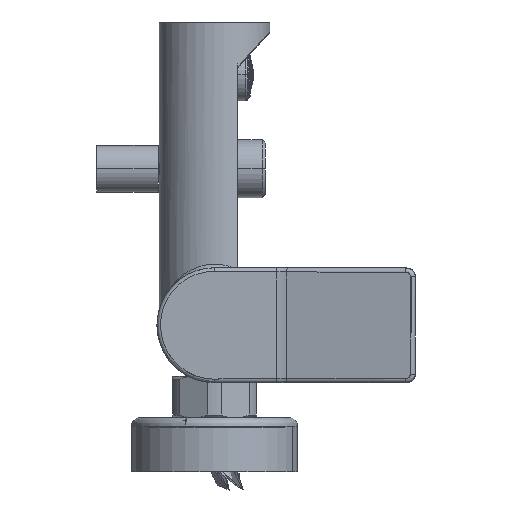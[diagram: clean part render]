
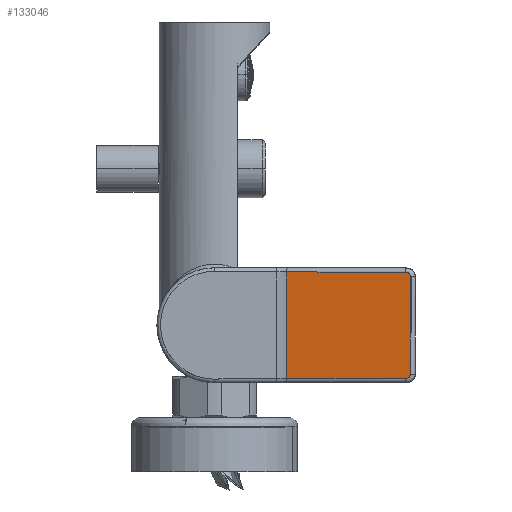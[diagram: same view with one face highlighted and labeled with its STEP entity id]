
A CAD part, left-side view. The second image highlights one B-rep face of the part: STEP entity #133046.
In plain terms, the highlighted planar face has unit normal (-0.984, 0.181, 0).
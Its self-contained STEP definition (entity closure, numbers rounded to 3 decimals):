
#2978 = CARTESIAN_POINT ( 'NONE',  ( -172.516, -66.192, 277.245 ) ) ;
#3785 = CARTESIAN_POINT ( 'NONE',  ( -163.992, -19.845, 238.464 ) ) ;
#4367 = CARTESIAN_POINT ( 'NONE',  ( -172.471, -65.951, 277.744 ) ) ;
#6793 = CARTESIAN_POINT ( 'NONE',  ( -172.223, -64.555, 239.909 ) ) ;
#8357 = EDGE_LOOP ( 'NONE', ( #100286, #77087, #90310, #76888, #104806, #16167 ) ) ;
#9609 = CARTESIAN_POINT ( 'NONE',  ( -172.532, -66.234, 241.391 ) ) ;
#9732 = VECTOR ( 'NONE', #23044, 1000. ) ;
#9807 = EDGE_CURVE ( 'NONE', #115865, #17746, #102676, .T. ) ;
#11719 = CARTESIAN_POINT ( 'NONE',  ( -172.524, -66.195, 241.182 ) ) ;
#15791 = CARTESIAN_POINT ( 'NONE',  ( -172.37, -65.402, 278.205 ) ) ;
#16167 = ORIENTED_EDGE ( 'NONE', *, *, #88580, .T. ) ;
#17091 = CARTESIAN_POINT ( 'NONE',  ( -172.223, -64.602, 278.409 ) ) ;
#17746 = VERTEX_POINT ( 'NONE', #52116 ) ;
#18443 = CARTESIAN_POINT ( 'NONE',  ( -172.223, -64.555, 239.909 ) ) ;
#19886 = EDGE_CURVE ( 'NONE', #46797, #96023, #78971, .T. ) ;
#20349 = CARTESIAN_POINT ( 'NONE',  ( -172.271, -64.818, 239.924 ) ) ;
#21745 = VECTOR ( 'NONE', #78220, 1000. ) ;
#21827 = CARTESIAN_POINT ( 'NONE',  ( -163.992, -19.847, 239.964 ) ) ;
#23044 = DIRECTION ( 'NONE',  ( -0.181, -0.983, -0.001 ) ) ;
#23213 = CARTESIAN_POINT ( 'NONE',  ( -172.532, -66.231, 238.407 ) ) ;
#24435 = CARTESIAN_POINT ( 'NONE',  ( -172.529, -66.263, 276.975 ) ) ;
#28989 = CARTESIAN_POINT ( 'NONE',  ( -172.332, -65.148, 240.018 ) ) ;
#31789 = CARTESIAN_POINT ( 'NONE',  ( -172.532, -66.234, 241.607 ) ) ;
#32147 = AXIS2_PLACEMENT_3D ( 'NONE', #3785, #67405, #45276 ) ;
#32468 = CARTESIAN_POINT ( 'NONE',  ( -164.322, -21.689, 278.462 ) ) ;
#36641 = PLANE ( 'NONE',  #32147 ) ;
#37943 = CARTESIAN_POINT ( 'NONE',  ( -172.223, -64.602, 278.409 ) ) ;
#40004 = VECTOR ( 'NONE', #56813, 1000. ) ;
#40397 = CARTESIAN_POINT ( 'NONE',  ( -172.506, -66.094, 240.928 ) ) ;
#45276 = DIRECTION ( 'NONE',  ( 0.181, 0.983, 0.001 ) ) ;
#46797 = VERTEX_POINT ( 'NONE', #32468 ) ;
#48670 = CARTESIAN_POINT ( 'NONE',  ( -172.426, -65.706, 277.993 ) ) ;
#49682 = CARTESIAN_POINT ( 'NONE',  ( -172.376, -65.388, 240.114 ) ) ;
#51121 = CARTESIAN_POINT ( 'NONE',  ( -172.456, -65.824, 240.489 ) ) ;
#52116 = CARTESIAN_POINT ( 'NONE',  ( -172.532, -66.234, 241.607 ) ) ;
#56813 = DIRECTION ( 'NONE',  ( 0.181, 0.983, 0.001 ) ) ;
#58722 = CARTESIAN_POINT ( 'NONE',  ( -172.512, -66.17, 277.308 ) ) ;
#63491 = CARTESIAN_POINT ( 'NONE',  ( -164.322, -21.642, 239.962 ) ) ;
#63931 = CARTESIAN_POINT ( 'NONE',  ( -172.327, -65.123, 240.009 ) ) ;
#66797 = LINE ( 'NONE', #21827, #40004 ) ;
#67405 = DIRECTION ( 'NONE',  ( -0.983, 0.181, 0. ) ) ;
#70107 = CARTESIAN_POINT ( 'NONE',  ( -172.532, -66.277, 276.707 ) ) ;
#72532 = CARTESIAN_POINT ( 'NONE',  ( -172.411, -65.578, 240.24 ) ) ;
#73229 = CARTESIAN_POINT ( 'NONE',  ( -172.304, -64.997, 239.967 ) ) ;
#76857 = CARTESIAN_POINT ( 'NONE',  ( -164.322, -21.641, 238.462 ) ) ;
#76888 = ORIENTED_EDGE ( 'NONE', *, *, #88551, .F. ) ;
#77087 = ORIENTED_EDGE ( 'NONE', *, *, #122696, .F. ) ;
#78220 = DIRECTION ( 'NONE',  ( 0., -0.001, 1. ) ) ;
#78362 = VERTEX_POINT ( 'NONE', #108437 ) ;
#78971 = LINE ( 'NONE', #76857, #88342 ) ;
#80108 = CARTESIAN_POINT ( 'NONE',  ( -172.513, -66.179, 277.283 ) ) ;
#80830 = CARTESIAN_POINT ( 'NONE',  ( -172.346, -65.272, 278.267 ) ) ;
#81517 = CARTESIAN_POINT ( 'NONE',  ( -172.511, -66.165, 277.32 ) ) ;
#83253 = CARTESIAN_POINT ( 'NONE',  ( -172.32, -65.085, 239.995 ) ) ;
#88342 = VECTOR ( 'NONE', #88968, 1000. ) ;
#88551 = EDGE_CURVE ( 'NONE', #115865, #96023, #66797, .T. ) ;
#88580 = EDGE_CURVE ( 'NONE', #17746, #78362, #131790, .T. ) ;
#88968 = DIRECTION ( 'NONE',  ( 0., 0.001, -1. ) ) ;
#90310 = ORIENTED_EDGE ( 'NONE', *, *, #19886, .T. ) ;
#92247 = CARTESIAN_POINT ( 'NONE',  ( -172.341, -65.246, 278.278 ) ) ;
#92925 = CARTESIAN_POINT ( 'NONE',  ( -172.3, -65.021, 278.369 ) ) ;
#93969 = EDGE_CURVE ( 'NONE', #78362, #123341, #109973, .T. ) ;
#94665 = CARTESIAN_POINT ( 'NONE',  ( -172.495, -66.032, 240.796 ) ) ;
#96023 = VERTEX_POINT ( 'NONE', #63491 ) ;
#98780 = LINE ( 'NONE', #108082, #9732 ) ;
#100286 = ORIENTED_EDGE ( 'NONE', *, *, #93969, .T. ) ;
#100847 = CARTESIAN_POINT ( 'NONE',  ( -172.262, -64.815, 278.409 ) ) ;
#100964 = FACE_OUTER_BOUND ( 'NONE', #8357, .T. ) ;
#102258 = CARTESIAN_POINT ( 'NONE',  ( -172.354, -65.312, 278.249 ) ) ;
#102676 = B_SPLINE_CURVE_WITH_KNOTS ( 'NONE', 3,
 ( #6793, #118228, #20349, #73229, #83253, #63931, #28989, #107476, #49682, #72532, #51121, #116112, #94665, #138222, #40397, #129626, #140344, #11719, #9609, #31789 ),
 .UNSPECIFIED., .F., .F.,
 ( 4, 1, 1, 1, 2, 2, 2, 1, 1, 1, 2, 2, 4 ),
 ( 0., 0.125, 0.187, 0.219, 0.234, 0.25, 0.5, 0.625, 0.687, 0.719, 0.734, 0.75, 1. ),
 .UNSPECIFIED. ) ;
#102951 = CARTESIAN_POINT ( 'NONE',  ( -172.339, -65.231, 278.284 ) ) ;
#104806 = ORIENTED_EDGE ( 'NONE', *, *, #9807, .T. ) ;
#107476 = CARTESIAN_POINT ( 'NONE',  ( -172.334, -65.159, 240.023 ) ) ;
#108082 = CARTESIAN_POINT ( 'NONE',  ( -172.767, -67.558, 278.406 ) ) ;
#108437 = CARTESIAN_POINT ( 'NONE',  ( -172.532, -66.277, 276.707 ) ) ;
#109973 = B_SPLINE_CURVE_WITH_KNOTS ( 'NONE', 3,
 ( #70107, #123005, #24435, #135792, #2978, #80108, #58722, #81517, #123707, #4367, #48670, #113684, #15791, #102258, #80830, #92247, #102951, #92925, #100847, #37943 ),
 .UNSPECIFIED., .F., .F.,
 ( 4, 1, 1, 1, 2, 2, 2, 1, 1, 1, 2, 2, 4 ),
 ( 0., 0.125, 0.187, 0.219, 0.234, 0.25, 0.5, 0.625, 0.687, 0.719, 0.734, 0.75, 1. ),
 .UNSPECIFIED. ) ;
#113684 = CARTESIAN_POINT ( 'NONE',  ( -172.402, -65.573, 278.103 ) ) ;
#115865 = VERTEX_POINT ( 'NONE', #18443 ) ;
#116112 = CARTESIAN_POINT ( 'NONE',  ( -172.476, -65.932, 240.623 ) ) ;
#118228 = CARTESIAN_POINT ( 'NONE',  ( -172.242, -64.661, 239.909 ) ) ;
#122696 = EDGE_CURVE ( 'NONE', #46797, #123341, #98780, .T. ) ;
#123005 = CARTESIAN_POINT ( 'NONE',  ( -172.532, -66.277, 276.815 ) ) ;
#123341 = VERTEX_POINT ( 'NONE', #17091 ) ;
#123707 = CARTESIAN_POINT ( 'NONE',  ( -172.494, -66.075, 277.551 ) ) ;
#129626 = CARTESIAN_POINT ( 'NONE',  ( -172.508, -66.105, 240.954 ) ) ;
#131790 = LINE ( 'NONE', #23213, #21745 ) ;
#133046 = ADVANCED_FACE ( 'NONE', ( #100964 ), #36641, .T. ) ;
#135792 = CARTESIAN_POINT ( 'NONE',  ( -172.521, -66.22, 277.155 ) ) ;
#138222 = CARTESIAN_POINT ( 'NONE',  ( -172.503, -66.076, 240.888 ) ) ;
#140344 = CARTESIAN_POINT ( 'NONE',  ( -172.509, -66.111, 240.969 ) ) ;
